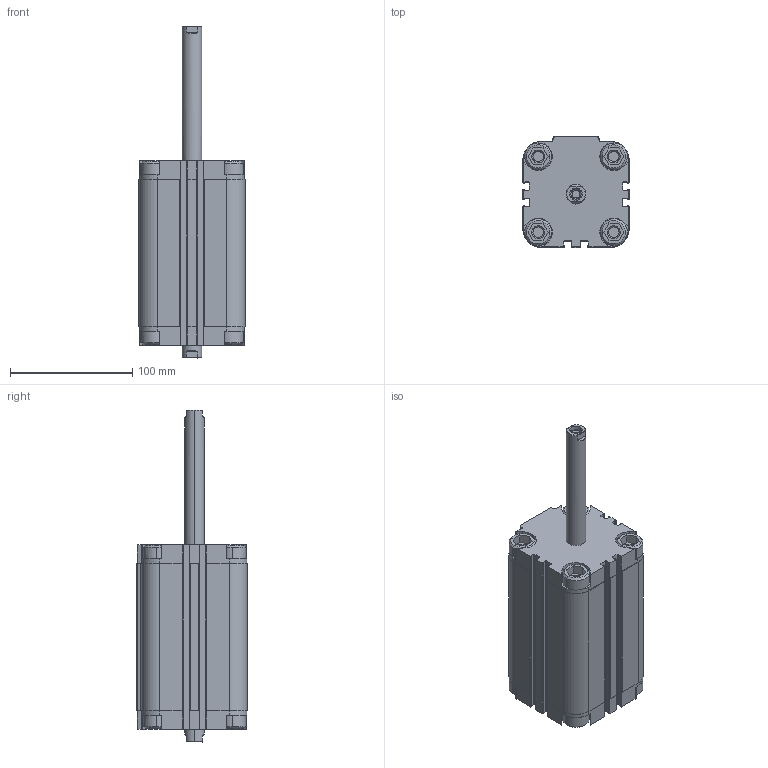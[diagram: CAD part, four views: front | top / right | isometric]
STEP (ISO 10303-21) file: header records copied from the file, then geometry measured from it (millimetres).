
FILE_DESCRIPTION (( 'STEP AP203' ), '1' );
FILE_NAME ('QJ0630100A.step', '2012-10-18T17:18:03', ( '' ), ( '' ), 'SwSTEP 2.0', 'SolidWorks 2012', '' );
FILE_SCHEMA (( 'CONFIG_CONTROL_DESIGN' ));
Length unit declared in the file: millimetre
Products named in the file (1): QJ0630100A
Bounding box: 87 x 91 x 272 mm (x, y, z)
Volume: 1097336.7 mm3; surface area: 96664.2 mm2
Topology: 1 solids, 1 shells, 442 faces, 1198 edges, 782 vertices
Faces by surface type: plane 240, cylinder 156, cone 46
Entity records: 14037 total; most frequent: CARTESIAN_POINT 2483, DIRECTION 2466, ORIENTED_EDGE 2396, EDGE_CURVE 1198, AXIS2_PLACEMENT_3D 845, VERTEX_POINT 782, LINE 776, VECTOR 776
